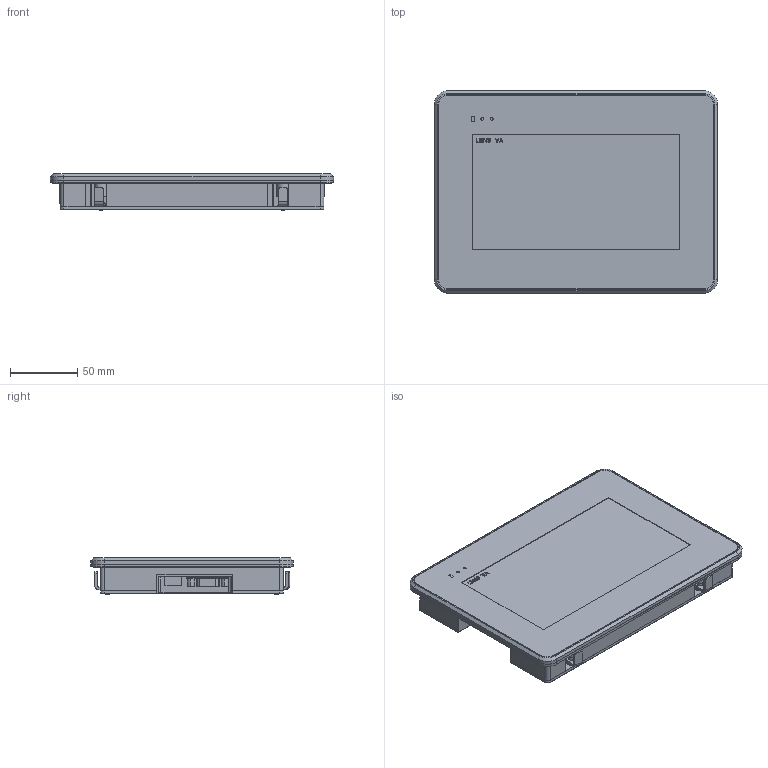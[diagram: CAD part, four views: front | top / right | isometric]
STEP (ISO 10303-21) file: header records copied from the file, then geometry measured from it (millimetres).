
FILE_DESCRIPTION((''),'2;1');
FILE_NAME('DMT10600T070-37WTC_ASM','2022-03-02T',('Administrator'),(''),'PRO/ENGINEER BY PARAMETRIC TECHNOLOGY CORPORATION, 2014320','PRO/ENGINEER BY PARAMETRIC TECHNOLOGY CORPORATION, 2014320','');
FILE_SCHEMA(('CONFIG_CONTROL_DESIGN','SHAPE_APPEARANCE_LAYERS_GROUPS'));
Products named in the file (1): DMT10600T070-37WTC_ASM
Bounding box: 210 x 150 x 26.8 mm (x, y, z)
Volume: 289564.5 mm3; surface area: 276290.6 mm2
Topology: 2 solids, 17 shells, 2952 faces, 7943 edges, 5304 vertices
Faces by surface type: plane 1863, cylinder 561, cone 498, torus 22, bspline 8
Entity records: 100395 total; most frequent: CARTESIAN_POINT 16706, DIRECTION 16286, ORIENTED_EDGE 15886, EDGE_CURVE 7943, AXIS2_PLACEMENT_3D 5470, VECTOR 5346, LINE 5346, VERTEX_POINT 5304
